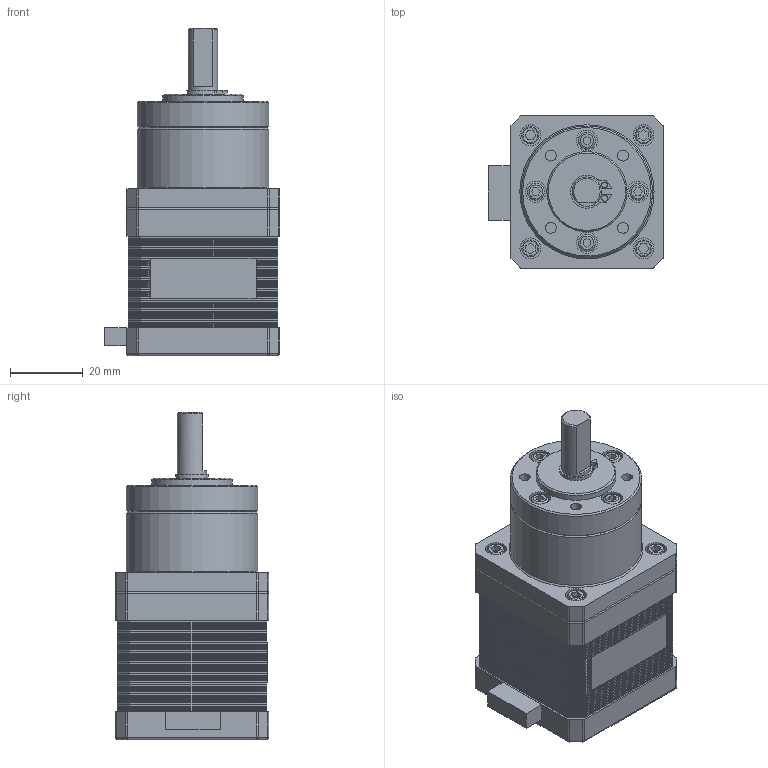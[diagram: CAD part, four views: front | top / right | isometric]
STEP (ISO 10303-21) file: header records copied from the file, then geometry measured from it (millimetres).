
FILE_DESCRIPTION(/* description */ (''),/* implementation_level */ '2;1');
FILE_NAME(/* name */ 'NEMA 17HS4401S-PG518.stp',/* time_stamp */ '2025-11-27T20:18:15+01:00',/* author */ ('R5800u'),/* organization */ (''),/* preprocessor_version */ 'ST-DEVELOPER v20',/* originating_system */ 'Autodesk Inventor 2025',/* authorisation */ '');
FILE_SCHEMA (('AUTOMOTIVE_DESIGN { 1 0 10303 214 3 1 1 }'));
Length unit declared in the file: millimetre
Products named in the file (1): NEMA 17HS4401S-PG518
Bounding box: 48 x 42 x 89.7 mm (x, y, z)
Volume: 101562.8 mm3; surface area: 20372.4 mm2
Topology: 2 solids, 2 shells, 1145 faces, 2768 edges, 1680 vertices
Faces by surface type: plane 1030, cylinder 79, sphere 16, torus 13, cone 7
Full cylindrical faces by diameter (mm): 1.6 x2, 3 x8, 4.68 x8, 5 x1, 5.75 x8, 7 x1, 8 x1, 22 x1, 36 x2
Entity records: 33404 total; most frequent: CARTESIAN_POINT 5582, ORIENTED_EDGE 5504, DIRECTION 5241, EDGE_CURVE 2752, LINE 2551, VECTOR 2551, VERTEX_POINT 1679, AXIS2_PLACEMENT_3D 1345
